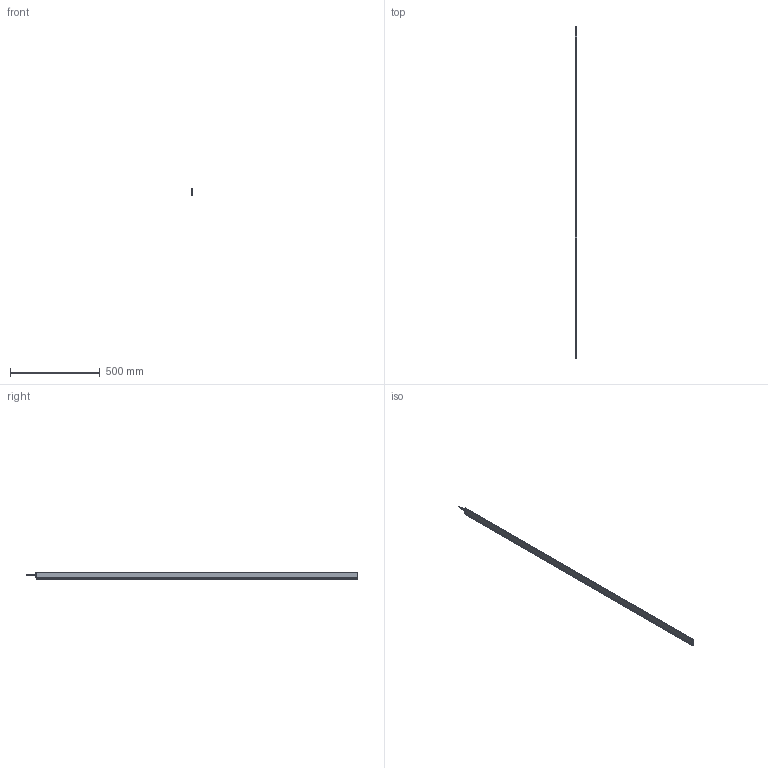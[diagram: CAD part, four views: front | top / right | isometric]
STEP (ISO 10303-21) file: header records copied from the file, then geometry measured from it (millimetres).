
FILE_DESCRIPTION (( 'STEP AP214' ), '1' );
FILE_NAME ('ILG-L-K2-1798mm.STEP', '2017-07-11T08:25:17', ( '' ), ( '' ), 'SwSTEP 2.0', 'SolidWorks 2016', '' );
FILE_SCHEMA (( 'AUTOMOTIVE_DESIGN' ));
Length unit declared in the file: millimetre
Products named in the file (1): ILG-L-K2-1798mm
Bounding box: 9 x 1852.5 x 40.71 mm (x, y, z)
Surface area: 355686.8 mm2 (no closed solid volume)
Topology: 0 solids, 13 shells, 681 faces, 1786 edges, 1135 vertices
Faces by surface type: cylinder 288, plane 255, cone 90, bspline 32, torus 16
Entity records: 30628 total; most frequent: CARTESIAN_POINT 6489, ORIENTED_EDGE 3525, DIRECTION 3406, EDGE_CURVE 1770, AXIS2_PLACEMENT_3D 1301, VERTEX_POINT 1135, VECTOR 804, LINE 804
